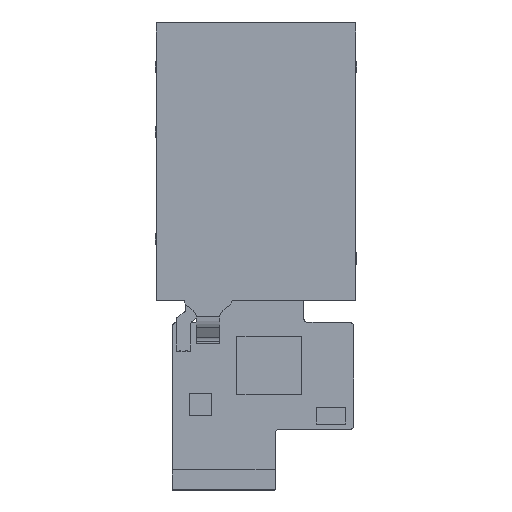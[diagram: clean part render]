
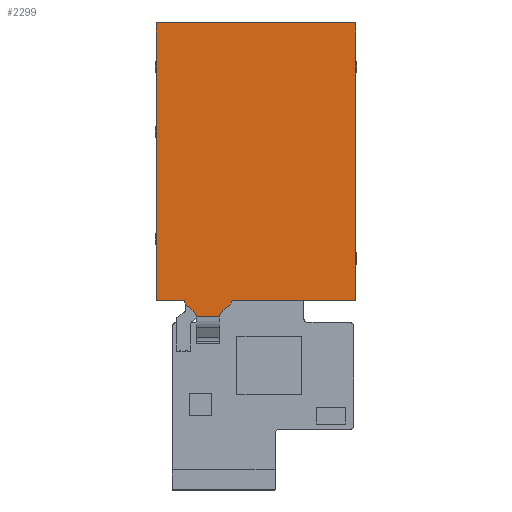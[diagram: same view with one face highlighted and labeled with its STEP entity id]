
A CAD part, top view. The second image highlights one B-rep face of the part: STEP entity #2299.
In plain terms, the highlighted planar face has unit normal (0, 0, 1).
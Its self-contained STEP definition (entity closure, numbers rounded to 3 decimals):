
#199=DIRECTION('',(1.,0.,0.));
#200=VECTOR('',#199,5.803);
#201=CARTESIAN_POINT('',(-14.788,-40.953,1.6));
#202=LINE('',#201,#200);
#257=CARTESIAN_POINT('',(-16.787,-41.031,1.6));
#258=DIRECTION('',(0.,0.,1.));
#259=DIRECTION('',(0.999,0.039,0.));
#260=AXIS2_PLACEMENT_3D('',#257,#258,#259);
#262=DIRECTION('',(-0.799,0.602,0.));
#263=VECTOR('',#262,1.833);
#264=CARTESIAN_POINT('',(-15.583,-39.433,1.6));
#265=LINE('',#264,#263);
#266=CARTESIAN_POINT('',(-15.843,-36.733,1.6));
#267=DIRECTION('',(0.,0.,-1.));
#268=DIRECTION('',(-0.602,-0.799,0.));
#269=AXIS2_PLACEMENT_3D('',#266,#267,#268);
#271=DIRECTION('',(-1.,0.,0.));
#272=VECTOR('',#271,6.913);
#273=CARTESIAN_POINT('',(-17.837,-36.895,1.6));
#274=LINE('',#273,#272);
#275=DIRECTION('',(0.,1.,0.));
#276=VECTOR('',#275,68.7);
#277=CARTESIAN_POINT('',(-24.75,-36.895,1.6));
#278=LINE('',#277,#276);
#279=DIRECTION('',(1.,0.,0.));
#280=VECTOR('',#279,49.5);
#281=CARTESIAN_POINT('',(-24.75,31.805,1.6));
#282=LINE('',#281,#280);
#283=DIRECTION('',(0.,-1.,0.));
#284=VECTOR('',#283,68.7);
#285=CARTESIAN_POINT('',(24.75,31.805,1.6));
#286=LINE('',#285,#284);
#287=DIRECTION('',(-1.,0.,0.));
#288=VECTOR('',#287,30.687);
#289=CARTESIAN_POINT('',(24.75,-36.895,1.6));
#290=LINE('',#289,#288);
#291=CARTESIAN_POINT('',(-7.93,-36.733,1.6));
#292=DIRECTION('',(0.,0.,-1.));
#293=DIRECTION('',(0.997,-0.081,0.));
#294=AXIS2_PLACEMENT_3D('',#291,#292,#293);
#296=DIRECTION('',(-0.799,-0.602,0.));
#297=VECTOR('',#296,1.833);
#298=CARTESIAN_POINT('',(-6.727,-38.33,1.6));
#299=LINE('',#298,#297);
#300=CARTESIAN_POINT('',(-6.987,-41.031,1.6));
#301=DIRECTION('',(0.,0.,1.));
#302=DIRECTION('',(-0.602,0.799,0.));
#303=AXIS2_PLACEMENT_3D('',#300,#301,#302);
#1467=CARTESIAN_POINT('',(24.75,31.805,1.6));
#1468=VERTEX_POINT('',#1467);
#1469=CARTESIAN_POINT('',(-24.75,31.805,1.6));
#1470=VERTEX_POINT('',#1469);
#1539=CARTESIAN_POINT('',(-24.75,-36.895,1.6));
#1540=VERTEX_POINT('',#1539);
#1589=CARTESIAN_POINT('',(-14.788,-40.953,1.6));
#1590=CARTESIAN_POINT('',(-8.985,-40.953,1.6));
#1591=VERTEX_POINT('',#1589);
#1592=VERTEX_POINT('',#1590);
#1593=CARTESIAN_POINT('',(-15.583,-39.433,1.6));
#1594=VERTEX_POINT('',#1593);
#1595=CARTESIAN_POINT('',(-17.047,-38.33,1.6));
#1596=VERTEX_POINT('',#1595);
#1597=CARTESIAN_POINT('',(-17.837,-36.895,1.6));
#1598=VERTEX_POINT('',#1597);
#1599=CARTESIAN_POINT('',(24.75,-36.895,1.6));
#1600=VERTEX_POINT('',#1599);
#1601=CARTESIAN_POINT('',(-5.937,-36.895,1.6));
#1602=VERTEX_POINT('',#1601);
#1603=CARTESIAN_POINT('',(-6.727,-38.33,1.6));
#1604=VERTEX_POINT('',#1603);
#1605=CARTESIAN_POINT('',(-8.19,-39.433,1.6));
#1606=VERTEX_POINT('',#1605);
#2275=CARTESIAN_POINT('',(0.,0.,1.6));
#2276=DIRECTION('',(0.,0.,1.));
#2277=DIRECTION('',(1.,0.,0.));
#2278=AXIS2_PLACEMENT_3D('',#2275,#2276,#2277);
#2279=PLANE('',#2278);
#2280=ORIENTED_EDGE('',*,*,#2227,.F.);
#2282=ORIENTED_EDGE('',*,*,#2281,.T.);
#2284=ORIENTED_EDGE('',*,*,#2283,.T.);
#2285=ORIENTED_EDGE('',*,*,#2126,.T.);
#2286=ORIENTED_EDGE('',*,*,#2093,.T.);
#2288=ORIENTED_EDGE('',*,*,#2287,.T.);
#2289=ORIENTED_EDGE('',*,*,#1936,.T.);
#2290=ORIENTED_EDGE('',*,*,#2015,.T.);
#2291=ORIENTED_EDGE('',*,*,#2081,.T.);
#2293=ORIENTED_EDGE('',*,*,#2292,.T.);
#2295=ORIENTED_EDGE('',*,*,#2294,.T.);
#2296=ORIENTED_EDGE('',*,*,#2265,.T.);
#2297=EDGE_LOOP('',(#2280,#2282,#2284,#2285,#2286,#2288,#2289,#2290,#2291,#2293,
#2295,#2296));
#2298=FACE_OUTER_BOUND('',#2297,.F.);
#261=CIRCLE('',#260,2.);
#270=CIRCLE('',#269,2.);
#295=CIRCLE('',#294,2.);
#304=CIRCLE('',#303,2.);
#1936=EDGE_CURVE('',#1470,#1468,#282,.T.);
#2015=EDGE_CURVE('',#1468,#1600,#286,.T.);
#2081=EDGE_CURVE('',#1600,#1602,#290,.T.);
#2093=EDGE_CURVE('',#1598,#1540,#274,.T.);
#2126=EDGE_CURVE('',#1596,#1598,#270,.T.);
#2227=EDGE_CURVE('',#1591,#1592,#202,.T.);
#2265=EDGE_CURVE('',#1606,#1592,#304,.T.);
#2281=EDGE_CURVE('',#1591,#1594,#261,.T.);
#2283=EDGE_CURVE('',#1594,#1596,#265,.T.);
#2287=EDGE_CURVE('',#1540,#1470,#278,.T.);
#2292=EDGE_CURVE('',#1602,#1604,#295,.T.);
#2294=EDGE_CURVE('',#1604,#1606,#299,.T.);
#2299=ADVANCED_FACE('',(#2298),#2279,.T.);
